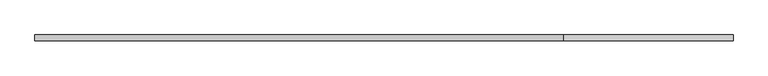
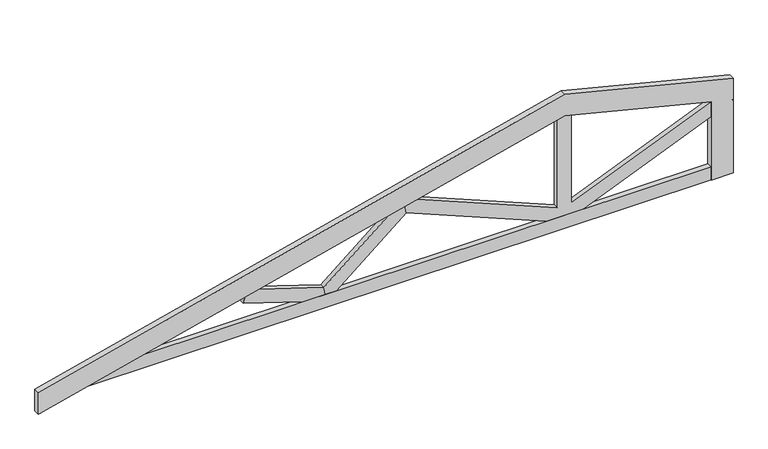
"""IFC4 building model written with IfcOpenShell, lengths in millimetres: beam geometry, Truss-Clipped : L-20' S-10' w 3/12 Pitch."""

from ifc_helpers import new_model, si_unit, origin, place, context, project, spatial, faceted_brep, source, transform, mapped, element, save


def beam_72227b9e(model_context):
    return source(origin(), model_context, "Body", "Brep", [
        faceted_brep([(431.378395, -157.343471, 0.0), (431.378395, -157.343471, 493.7125), (431.378395, -195.443471, 493.7125), (431.378395, -195.443471, 0.0), (-3334.171605, -158.930971, 88.9), (-3334.171605, -193.855971, 88.9), (291.678395, -193.855971, 88.9), (291.678395, -158.930971, 88.9), (-525.2061829, -160.518471, 88.9), (-525.2061829, -192.268471, 88.9), (-758.3370272, -192.268471, 88.9), (-758.3370272, -160.518471, 88.9), (-2095.9237255, -192.268471, 88.9), (-2165.771605, -192.268471, 88.9), (-2309.582679, -192.268471, 88.9), (-2309.582679, -160.518471, 88.9), (-2165.771605, -160.518471, 88.9), (-2095.9237255, -160.518471, 88.9), (-3689.771605, -158.930971, 0.0), (291.678395, -158.930971, 0.0), (291.678395, -195.443471, 0.0), (291.678395, -193.855971, 0.0), (-3689.771605, -193.855971, 0.0), (291.678395, -157.343471, 0.0), (-1650.0614927, -192.268471, 456.736342), (291.678395, -192.268471, 425.8648884), (291.678395, -192.268471, 522.0313616), (-597.321605, -192.268471, 155.3188616), (-597.321605, -192.268471, 750.8875), (-641.771605, -192.268471, 762.0), (-686.221605, -192.268471, 750.8875), (-686.221605, -192.268471, 155.3188616), (-1585.1931347, -192.268471, 526.1446176), (-1657.771605, -192.268471, 508.0), (291.678395, -160.518471, 425.8648884), (-1650.0614927, -160.518471, 456.736342), (-1657.771605, -160.518471, 508.0), (-1585.1931347, -160.518471, 526.1446176), (-686.221605, -160.518471, 155.3188616), (-686.221605, -160.518471, 750.8875), (-641.771605, -160.518471, 762.0), (-597.321605, -160.518471, 750.8875), (-597.321605, -160.518471, 155.3188616), (291.678395, -160.518471, 522.0313616), (-2175.2376065, -192.268471, 138.7150495), (-1757.9881279, -192.268471, 482.9458693), (-2175.2376065, -160.518471, 138.7150495), (-1757.9881279, -160.518471, 482.9458693), (-2687.510481, -160.518471, 211.7265356), (-2687.510481, -192.268471, 211.7265356), (-2673.771605, -192.268471, 254.0), (-2673.771605, -160.518471, 254.0), (-2592.487085, -192.268471, 274.32113), (-2592.487085, -160.518471, 274.32113), (-3990.0737492, -195.443471, -75.075536), (-641.771605, -195.443471, 762.0), (291.678395, -195.443471, 528.6375), (426.8805391, -195.443471, 494.836964), (431.378395, -195.443471, 494.836964), (431.378395, -195.443471, 637.711964), (-641.771605, -195.443471, 905.999464), (-3994.571605, -195.443471, 67.799464), (-3994.571605, -195.443471, -75.075536), (-3990.0737492, -157.343471, -75.075536), (-3994.571605, -157.343471, -75.075536), (-3994.571605, -157.343471, 67.799464), (-641.771605, -157.343471, 905.999464), (431.378395, -157.343471, 637.711964), (431.378395, -157.343471, 494.836964), (426.8805391, -157.343471, 494.836964), (291.678395, -157.343471, 528.6375), (-641.771605, -157.343471, 762.0)], [[[0, 1, 2, 3]], [[4, 5, 6, 7], [8, 9, 10, 11], [12, 13, 14, 15, 16, 17]], [[18, 4, 7, 19]], [[0, 3, 20, 21, 22, 18, 19, 23]], [[5, 22, 21, 6]], [[24, 10, 9, 25, 26, 27, 28, 29, 30, 31, 32, 33]], [[9, 8, 34, 25]], [[11, 35, 36, 37, 38, 39, 40, 41, 42, 43, 34, 8]], [[42, 27, 26, 43]], [[24, 35, 11, 10]], [[31, 38, 37, 32]], [[44, 13, 12, 24, 33, 45]], [[35, 24, 12, 17]], [[35, 17, 16, 46, 47, 36]], [[46, 44, 45, 47]], [[48, 49, 50, 51]], [[13, 44, 52, 50, 49, 14]], [[49, 48, 15, 14]], [[46, 16, 15, 48, 51, 53]], [[44, 46, 53, 52]], [[38, 31, 30, 39]], [[27, 42, 41, 28]], [[54, 55, 56, 20, 3, 2, 57, 58, 59, 60, 61, 62]], [[63, 64, 65, 66, 67, 68, 69, 1, 0, 23, 70, 71]], [[55, 54, 63, 71, 40, 39, 30, 29], [5, 4, 18, 22], [33, 32, 37, 36, 47, 45], [51, 50, 52, 53]], [[40, 71, 70, 56, 55, 29, 28, 41]], [[58, 57, 69, 68]], [[59, 58, 68, 67]], [[60, 59, 67, 66]], [[61, 60, 66, 65]], [[62, 61, 65, 64]], [[54, 62, 64, 63]], [[20, 56, 70, 23, 19, 7, 6, 21], [26, 25, 34, 43]], [[2, 1, 69, 57]]]),
    ])


if __name__ == "__main__":
    model = new_model("IFC4")
    model_context = context("Model", 3, world=origin())
    ifc_project = project(units=[si_unit("LENGTHUNIT", "METRE", prefix="MILLI")], contexts=[model_context])
    site = spatial("IfcSite", under=ifc_project)
    building = spatial("IfcBuilding", under=site)
    placement = place(None, origin())
    beam_shape = beam_72227b9e(model_context)
    element("IfcBeam", 1, ObjectType="Truss-Clipped : L-20' S-10' w 3/12 Pitch", at=placement, inside=building, context=model_context, shape_type="MappedRepresentation", body=[
        mapped(beam_shape, transform((0.0, 0.0, 0.0), x_axis=(1.0, 0.0, 0.0), y_axis=(0.0, 1.0, 0.0), z_axis=(0.0, 0.0, 1.0))),
    ])
    save(model, "model.ifc")
